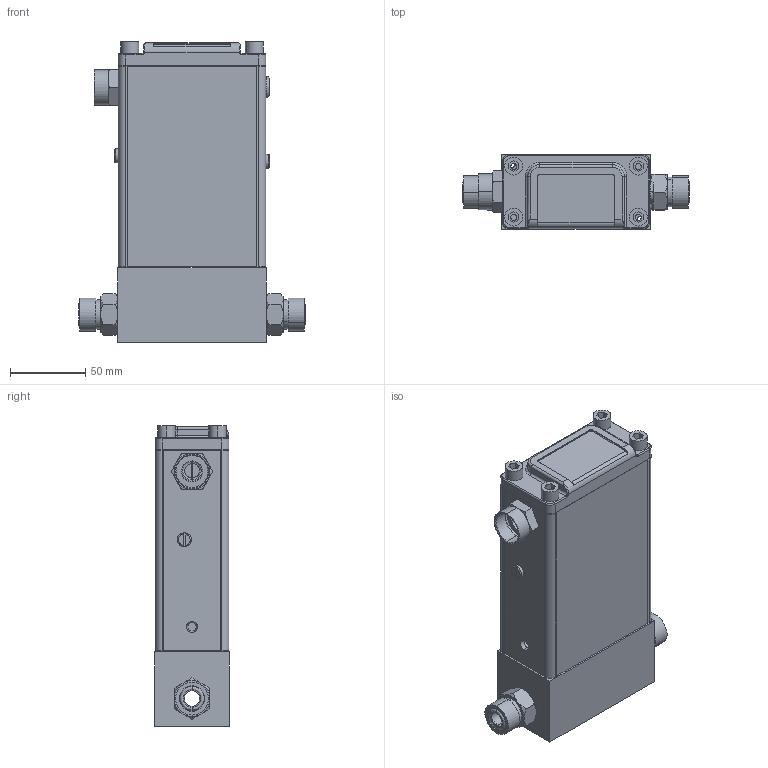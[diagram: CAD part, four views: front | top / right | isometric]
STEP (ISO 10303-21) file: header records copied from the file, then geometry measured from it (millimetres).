
FILE_DESCRIPTION (( 'STEP AP203' ), '1' );
FILE_NAME ('SLAMF60-Q-1M-0-A-REVB.STEP', '2018-05-24T18:16:57', ( 'mrutkowski' ), ( 'Hewlett-Packard Company' ), 'SwSTEP 2.0', 'SolidWorks 2017', '' );
FILE_SCHEMA (( 'CONFIG_CONTROL_DESIGN' ));
Length unit declared in the file: inch
Products named in the file (1): SLAMF60-Q-1M-0-A-REVB
Bounding box: 150.52 x 49.5 x 199.98 mm (x, y, z)
Surface area: 88698.6 mm2 (no closed solid volume)
Topology: 0 solids, 90 shells, 413 faces, 1344 edges, 1021 vertices
Faces by surface type: plane 255, cylinder 80, cone 44, bspline 34
Entity records: 15836 total; most frequent: CARTESIAN_POINT 4255, DIRECTION 2357, ORIENTED_EDGE 2008, EDGE_CURVE 1342, VERTEX_POINT 1021, VECTOR 863, LINE 863, AXIS2_PLACEMENT_3D 747
